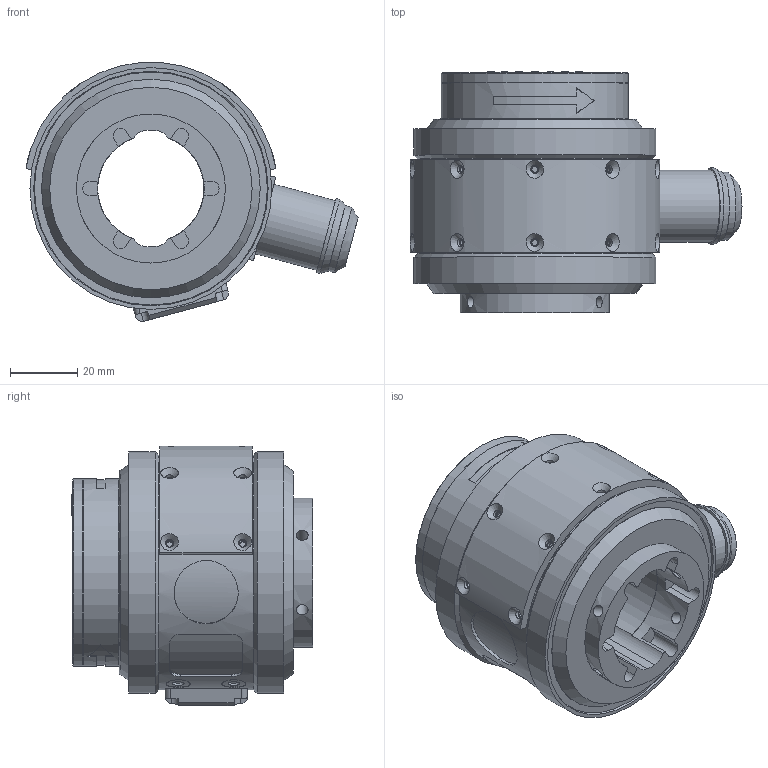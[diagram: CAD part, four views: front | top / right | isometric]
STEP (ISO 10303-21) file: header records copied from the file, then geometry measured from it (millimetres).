
FILE_DESCRIPTION (( 'STEP AP214' ), '1' );
FILE_NAME ('1003051 B7-1.24W .STEP', '2025-10-09T16:19:17', ( '' ), ( '' ), 'SwSTEP 2.0', 'SolidWorks 2024', '' );
FILE_SCHEMA (( 'AUTOMOTIVE_DESIGN' ));
Length unit declared in the file: inch
Products named in the file (1): 1003051 B7-1.24W 
Bounding box: 98.48 x 71.58 x 77.07 mm (x, y, z)
Volume: 191824.4 mm3; surface area: 36483.3 mm2
Topology: 1 solids, 14 shells, 1054 faces, 2801 edges, 1866 vertices
Faces by surface type: plane 631, cylinder 390, cone 23, bspline 8, torus 2
Full cylindrical faces by diameter (mm): 1.016 x7, 1.524 x7, 1.778 x12, 2.032 x14, 2.261 x8, 2.383 x10, 2.438 x4, 3.175 x7, 3.454 x8, 3.81 x1, 5.842 x1, 12.014 x1, 12.065 x1, 16.104 x1, 16.662 x1, 19.05 x1, 20.066 x1, 21.336 x1, 22.708 x1, 44.196 x1, 54.784 x1, 55.575 x2, 64.872 x2, 69.647 x1, 71.73 x2
Entity records: 35944 total; most frequent: CARTESIAN_POINT 9645, DIRECTION 5282, ORIENTED_EDGE 5262, EDGE_CURVE 2631, VERTEX_POINT 1821, LINE 1820, VECTOR 1820, AXIS2_PLACEMENT_3D 1731
